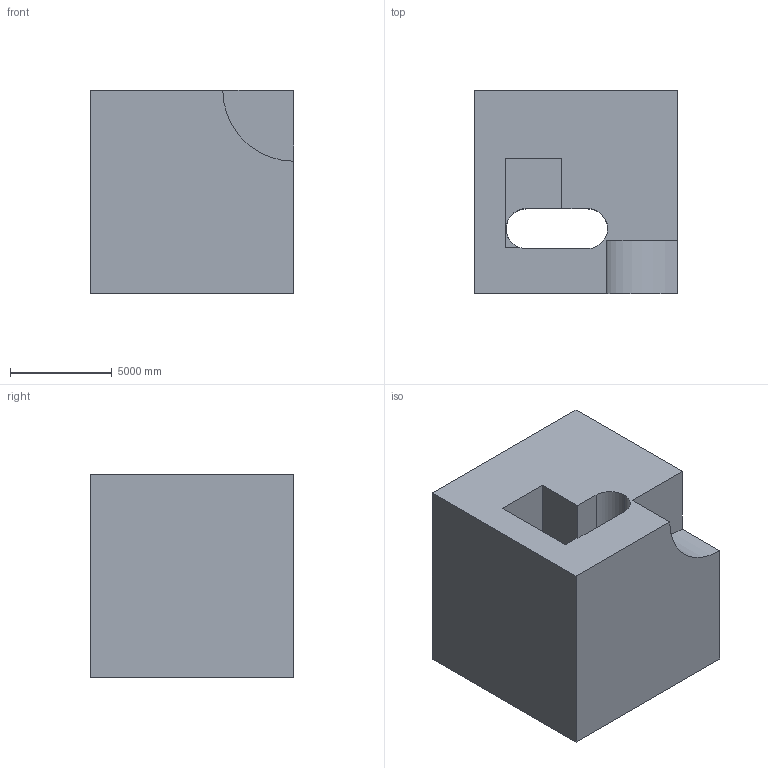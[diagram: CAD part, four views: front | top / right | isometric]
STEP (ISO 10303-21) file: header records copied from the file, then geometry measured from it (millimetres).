
FILE_DESCRIPTION (( 'STEP AP203' ), '1' );
FILE_NAME ('233.STEP', '2022-07-28T13:59:27', ( 'user' ), ( '' ), 'SwSTEP 2.0', 'SolidWorks 2021', '' );
FILE_SCHEMA (( 'CONFIG_CONTROL_DESIGN' ));
Length unit declared in the file: centimetre
Products named in the file (1): 233
Bounding box: 10000 x 10000 x 10000 mm (x, y, z)
Volume: 857769659374.6 mm3; surface area: 722077098.3 mm2
Topology: 1 solids, 1 shells, 18 faces, 48 edges, 32 vertices
Faces by surface type: plane 14, cylinder 4
Entity records: 642 total; most frequent: CARTESIAN_POINT 99, ORIENTED_EDGE 96, DIRECTION 95, EDGE_CURVE 48, VECTOR 39, LINE 39, VERTEX_POINT 32, AXIS2_PLACEMENT_3D 28
